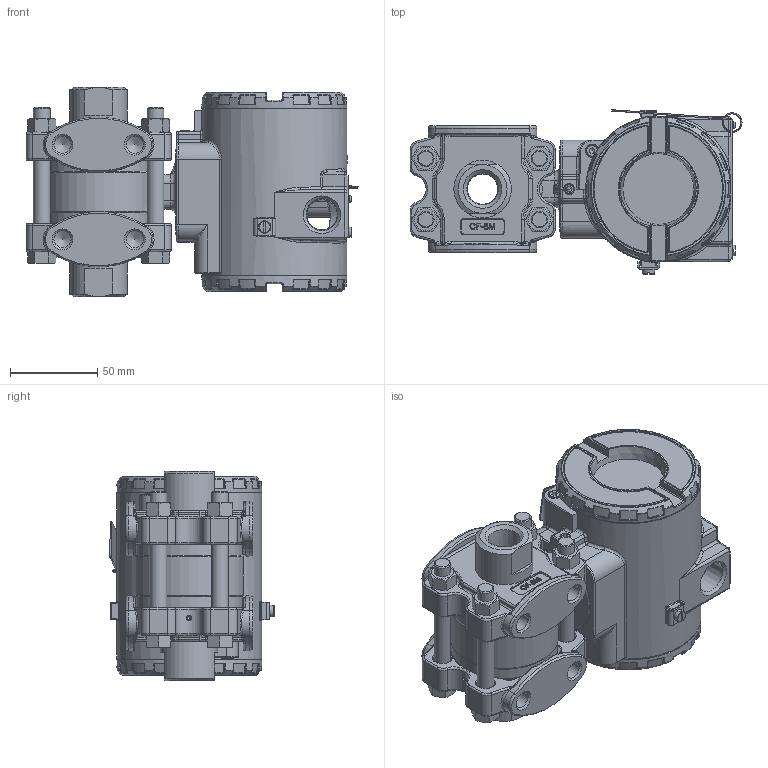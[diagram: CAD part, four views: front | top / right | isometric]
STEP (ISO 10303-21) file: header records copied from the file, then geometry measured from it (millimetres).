
FILE_DESCRIPTION(/* description */ (''),/* implementation_level */ '2;1');
FILE_NAME(/* name */ 'F:\Area\Desenvolvimento_2\Projects\Sensor\projetos\LD30X\montagens 3d - clientes\LD30XD0-3 1-2NPT Kynar.stp',/* time_stamp */ '2023-01-26T11:27:53-03:00',/* author */ ('inventor02'),/* organization */ (''),/* preprocessor_version */ 'ST-DEVELOPER v17',/* originating_system */ 'Autodesk Inventor 2019',/* authorisation */ '');
FILE_SCHEMA (('CONFIG_CONTROL_DESIGN'));
Length unit declared in the file: millimetre
Products named in the file (30): LD30XD3 1-2NPT Kynar; diferencial fx0-3 kynar; involucro fx0-3 apos a usinagem final; 101-b-2616 - kynar 1-2NPT; 096-C-0116-03; 096-B-0117-06; ISO 8752 - 3 x 14  A; Paraf. 3-8 x 16 UNC; Porca 3-8 x 16 UNC; carcaça vazia com tampas e plaqueta; carcaça LD inox sem letras; Subconjunto plaqueta 300; Plaqueta transmissor; Parafuso da Plaqueta; Rebite da Plaqueta; 096-A-0169-03; 101-A-0502-01; Chapa aterramento externo; ISO 1207 - M4 x 8; DIN 915 - M6 x 10; ANSI B18.3.1M - M4x0,7 x 8; Subconjunto tampa com visor aluminio; tampa pintada; VIDRO DO VISOR; oring 41x1 vidro tampa; Trava do vidro da tampa com visor; trava do vidro VH256; Subconjunto tampa sem visor-aluminio; tampa cega 300 pintada p0; 00034775-0
Assembly tree (38 placements, depth 4):
  LD30XD3 1-2NPT Kynar
    diferencial fx0-3 kynar
      involucro fx0-3 apos a usinagem final
      101-b-2616 - kynar 1-2NPT  x2
        096-C-0116-03
        096-B-0117-06
        ISO 8752 - 3 x 14  A
      Paraf. 3-8 x 16 UNC  x4
      Porca 3-8 x 16 UNC  x4
    carcaça vazia com tampas e plaqueta
      carcaça LD inox sem letras
      Subconjunto plaqueta 300
        Plaqueta transmissor
        Parafuso da Plaqueta
        Rebite da Plaqueta
        096-A-0169-03
        101-A-0502-01
      Chapa aterramento externo
      ISO 1207 - M4 x 8
      DIN 915 - M6 x 10
      ANSI B18.3.1M - M4x0,7 x 8  x2
      Subconjunto tampa com visor aluminio
        tampa pintada
        VIDRO DO VISOR
        oring 41x1 vidro tampa
        Trava do vidro da tampa com visor
        trava do vidro VH256
        00034775-0
      Subconjunto tampa sem visor-aluminio
        tampa cega 300 pintada p0
        00034775-0
Bounding box: 189.8 x 93.95 x 119.75 mm (x, y, z)
Volume: 636808.8 mm3; surface area: 242686.8 mm2
Topology: 34 solids, 34 shells, 2544 faces, 6193 edges, 3697 vertices
Faces by surface type: bspline 637, cylinder 609, plane 560, torus 438, cone 189, sphere 111
Full cylindrical faces by diameter (mm): 2 x2, 2.1 x2, 2.459 x5, 2.642 x1, 2.7 x1, 3 x5, 3.242 x4, 3.5 x4, 3.571 x1, 4 x4, 4.3 x1, 4.4 x1, 4.917 x1, 6 x2, 7 x4, 7.087 x2, 7.6 x2, 7.798 x4, 8.7 x2, 9.525 x4, 9.728 x4, 10.5 x8, 14 x1, 17.475 x4, 32.9 x4, 34.6 x2, 40.5 x1, 42 x1, 42.6 x1, 44 x1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
Entity records: 76268 total; most frequent: CARTESIAN_POINT 29478, ORIENTED_EDGE 9804, DIRECTION 9312, EDGE_CURVE 4902, AXIS2_PLACEMENT_3D 4033, VERTEX_POINT 2934, CIRCLE 2345, EDGE_LOOP 2160
